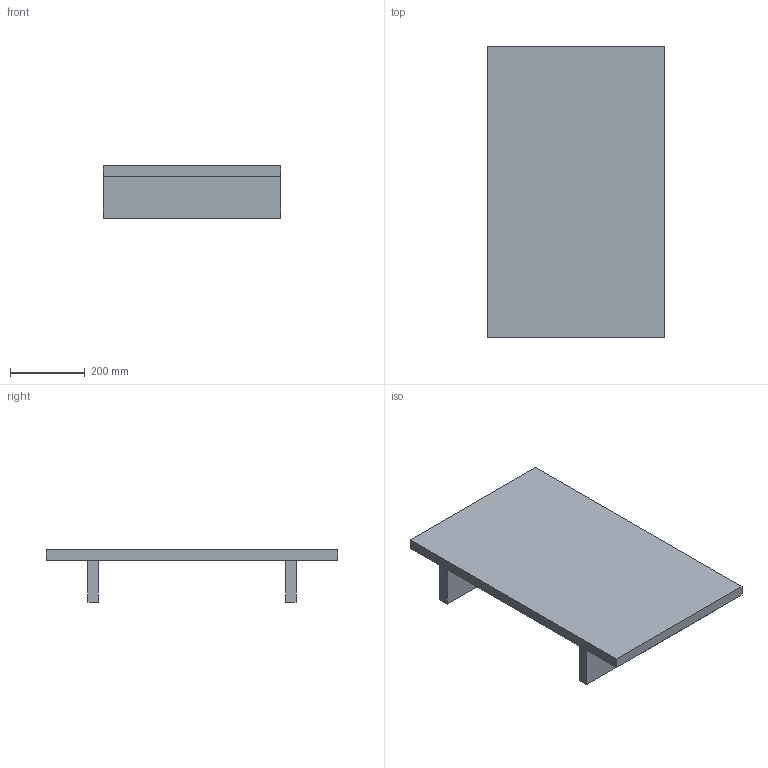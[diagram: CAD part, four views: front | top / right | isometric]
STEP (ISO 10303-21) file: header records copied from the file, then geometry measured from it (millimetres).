
FILE_DESCRIPTION(/* description */ (''),/* implementation_level */ '2;1');
FILE_NAME(/* name */ 'Kona Low table_3D',/* time_stamp */ '2021-05-03T14:07:36+02:00',/* author */ (''),/* organization */ (''),/* preprocessor_version */ 'ST-DEVELOPER v16.5',/* originating_system */ '',/* authorisation */ '');
FILE_SCHEMA (('CONFIG_CONTROL_DESIGN'));
Length unit declared in the file: millimetre
Products named in the file (1): Document
Bounding box: 475 x 780 x 140 mm (x, y, z)
Volume: 13353200 mm3; surface area: 1089824 mm2
Topology: 3 solids, 3 shells, 18 faces, 36 edges, 24 vertices
Faces by surface type: plane 18
Entity records: 488 total; most frequent: CARTESIAN_POINT 116, ORIENTED_EDGE 72, EDGE_CURVE 36, B_SPLINE_CURVE_WITH_KNOTS 36, VERTEX_POINT 24, DIRECTION 22, AXIS2_PLACEMENT_3D 20, ADVANCED_FACE 18
